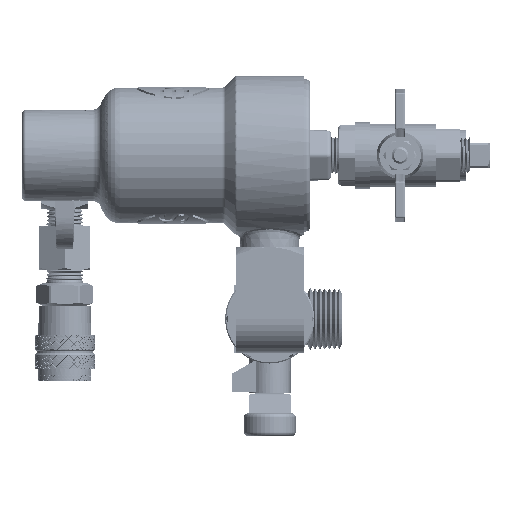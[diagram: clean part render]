
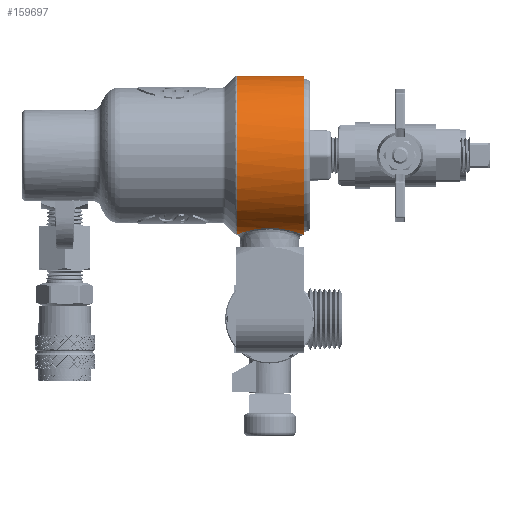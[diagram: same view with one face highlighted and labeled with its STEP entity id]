
A CAD part, left-side view. The second image highlights one B-rep face of the part: STEP entity #159697.
In plain terms, the highlighted cylindrical face has radius 29.743 mm (diameter 59.487 mm), a partial arc.
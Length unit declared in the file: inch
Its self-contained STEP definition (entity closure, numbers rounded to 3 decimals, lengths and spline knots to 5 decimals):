
#9558=FACE_OUTER_BOUND('',#19650,.T.);
#19650=EDGE_LOOP('',(#103776,#103777,#103778,#103779,#103780,#103781,#103782));
#29558=CIRCLE('',#169661,1.171);
#29565=CIRCLE('',#169678,1.171);
#29567=CIRCLE('',#169680,1.171);
#30896=B_SPLINE_CURVE_WITH_KNOTS('',3,(#241472,#241473,#241474,#241475,
#241476,#241477,#241478),.UNSPECIFIED.,.F.,.F.,(4,1,1,1,4),(-8.22298,
-7.78211,-7.34123,-6.90035,-6.84907),
 .UNSPECIFIED.);
#30897=B_SPLINE_CURVE_WITH_KNOTS('',3,(#241479,#241480,#241481,#241482,
#241483,#241484,#241485,#241486,#241487,#241488,#241489,#241490),
 .UNSPECIFIED.,.F.,.F.,(4,1,1,1,1,1,1,1,1,4),(-6.84907,-6.45947,
-5.57772,-4.98988,-4.69596,-3.81421,
-3.37333,-2.93245,-2.49158,-2.0507),
 .UNSPECIFIED.);
#38893=LINE('',#248395,#52682);
#38895=LINE('',#248415,#52684);
#52682=VECTOR('',#189076,0.3937);
#52684=VECTOR('',#189092,0.3937);
#66345=VERTEX_POINT('',#241327);
#66346=VERTEX_POINT('',#241329);
#66362=VERTEX_POINT('',#241467);
#66363=VERTEX_POINT('',#241469);
#66364=VERTEX_POINT('',#241471);
#66365=VERTEX_POINT('',#241522);
#66368=VERTEX_POINT('',#241531);
#79199=EDGE_CURVE('',#66346,#66345,#29558,.T.);
#79223=EDGE_CURVE('',#66363,#66364,#30896,.T.);
#79224=EDGE_CURVE('',#66364,#66362,#30897,.T.);
#79226=EDGE_CURVE('',#66362,#66365,#29565,.T.);
#79230=EDGE_CURVE('',#66368,#66363,#29567,.T.);
#79851=EDGE_CURVE('',#66368,#66346,#38893,.T.);
#79858=EDGE_CURVE('',#66365,#66345,#38895,.T.);
#103776=ORIENTED_EDGE('',*,*,#79199,.T.);
#103777=ORIENTED_EDGE('',*,*,#79858,.F.);
#103778=ORIENTED_EDGE('',*,*,#79226,.F.);
#103779=ORIENTED_EDGE('',*,*,#79224,.F.);
#103780=ORIENTED_EDGE('',*,*,#79223,.F.);
#103781=ORIENTED_EDGE('',*,*,#79230,.F.);
#103782=ORIENTED_EDGE('',*,*,#79851,.T.);
#148140=CYLINDRICAL_SURFACE('',#169913,1.171);
#159697=ADVANCED_FACE('',(#9558),#148140,.T.);
#169661=AXIS2_PLACEMENT_3D('',#241330,#188362,#188363);
#169678=AXIS2_PLACEMENT_3D('',#241523,#188405,#188406);
#169680=AXIS2_PLACEMENT_3D('',#241536,#188409,#188410);
#169913=AXIS2_PLACEMENT_3D('',#248414,#189090,#189091);
#188362=DIRECTION('center_axis',(0.,1.,0.));
#188363=DIRECTION('ref_axis',(-1.,0.,0.));
#188405=DIRECTION('center_axis',(0.,1.,0.));
#188406=DIRECTION('ref_axis',(1.,0.,0.));
#188409=DIRECTION('center_axis',(0.,1.,0.));
#188410=DIRECTION('ref_axis',(1.,0.,0.));
#189076=DIRECTION('',(0.,-1.,0.));
#189090=DIRECTION('center_axis',(0.,1.,0.));
#189091=DIRECTION('ref_axis',(-1.,0.,0.));
#189092=DIRECTION('',(0.,-1.,0.));
#241327=CARTESIAN_POINT('',(1.14673,0.,0.23718));
#241329=CARTESIAN_POINT('',(1.14673,0.,-0.23718));
#241330=CARTESIAN_POINT('Origin',(0.,0.,
0.));
#241467=CARTESIAN_POINT('',(-0.14686,0.97515,-1.16175));
#241469=CARTESIAN_POINT('',(0.14686,0.97515,-1.16175));
#241471=CARTESIAN_POINT('',(0.47814,0.5,-1.06894));
#241472=CARTESIAN_POINT('Ctrl Pts',(0.14686,0.97515,
-1.16175));
#241473=CARTESIAN_POINT('Ctrl Pts',(0.20829,0.95443,
-1.15399));
#241474=CARTESIAN_POINT('Ctrl Pts',(0.32171,0.8871,
-1.12942));
#241475=CARTESIAN_POINT('Ctrl Pts',(0.4409,0.72645,-1.08606));
#241476=CARTESIAN_POINT('Ctrl Pts',(0.47647,0.5841,
-1.06958));
#241477=CARTESIAN_POINT('Ctrl Pts',(0.47816,0.50794,
-1.0689));
#241478=CARTESIAN_POINT('Ctrl Pts',(0.47816,0.5,
-1.06892));
#241479=CARTESIAN_POINT('Ctrl Pts',(0.47816,0.5,
-1.06892));
#241480=CARTESIAN_POINT('Ctrl Pts',(0.47811,0.4397,
-1.06902));
#241481=CARTESIAN_POINT('Ctrl Pts',(0.44348,0.24272,
-1.08511));
#241482=CARTESIAN_POINT('Ctrl Pts',(0.24401,0.02541,
-1.16049));
#241483=CARTESIAN_POINT('Ctrl Pts',(-0.02361,-0.01336,
-1.17657));
#241484=CARTESIAN_POINT('Ctrl Pts',(-0.27559,0.06037,
-1.148));
#241485=CARTESIAN_POINT('Ctrl Pts',(-0.44893,0.24839,
-1.08336));
#241486=CARTESIAN_POINT('Ctrl Pts',(-0.49131,0.5248,
-1.06257));
#241487=CARTESIAN_POINT('Ctrl Pts',(-0.44089,0.7264,
-1.08612));
#241488=CARTESIAN_POINT('Ctrl Pts',(-0.32171,0.88714,
-1.12939));
#241489=CARTESIAN_POINT('Ctrl Pts',(-0.20829,0.95443,
-1.15399));
#241490=CARTESIAN_POINT('Ctrl Pts',(-0.14686,0.97515,
-1.16175));
#241522=CARTESIAN_POINT('',(1.14673,0.97515,0.23718));
#241523=CARTESIAN_POINT('Origin',(0.,0.97515,
0.));
#241531=CARTESIAN_POINT('',(1.14673,0.97515,-0.23718));
#241536=CARTESIAN_POINT('Origin',(0.,0.97515,
0.));
#248395=CARTESIAN_POINT('',(1.14673,0.,-0.23718));
#248414=CARTESIAN_POINT('Origin',(0.,0.5,0.));
#248415=CARTESIAN_POINT('',(1.14673,0.5,0.23718));
